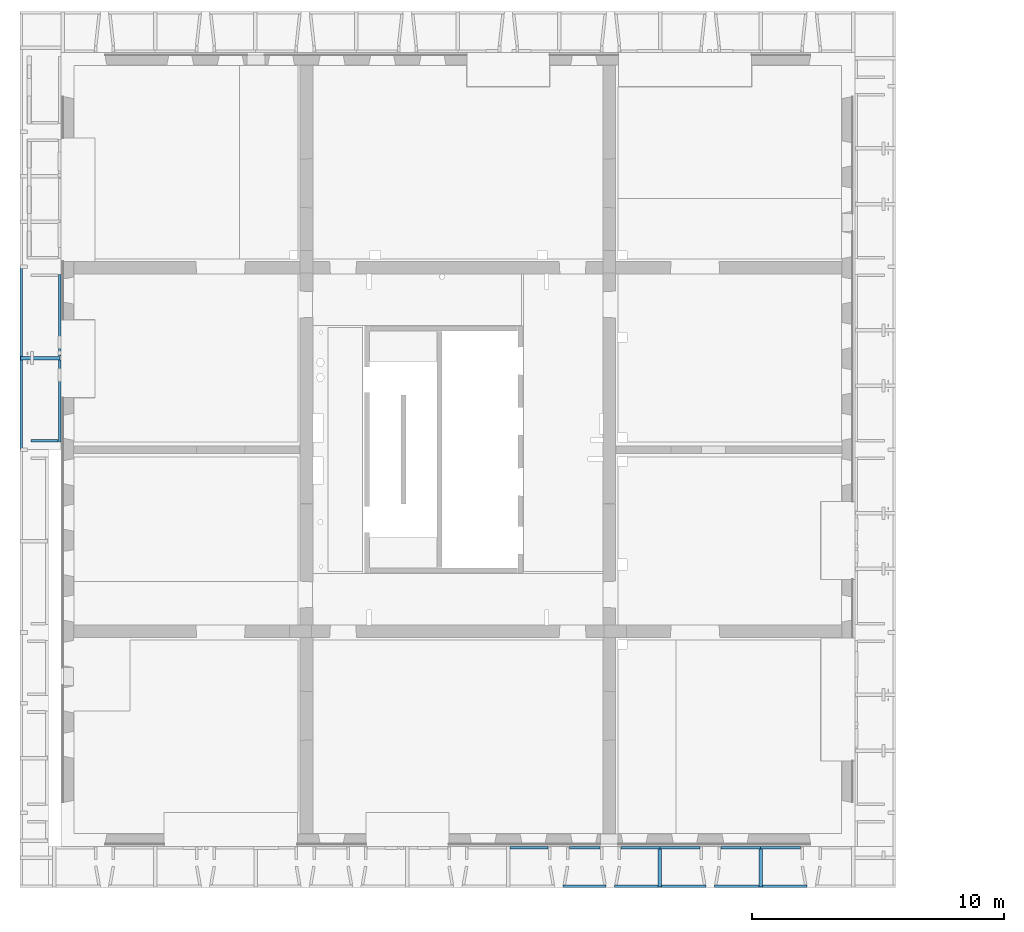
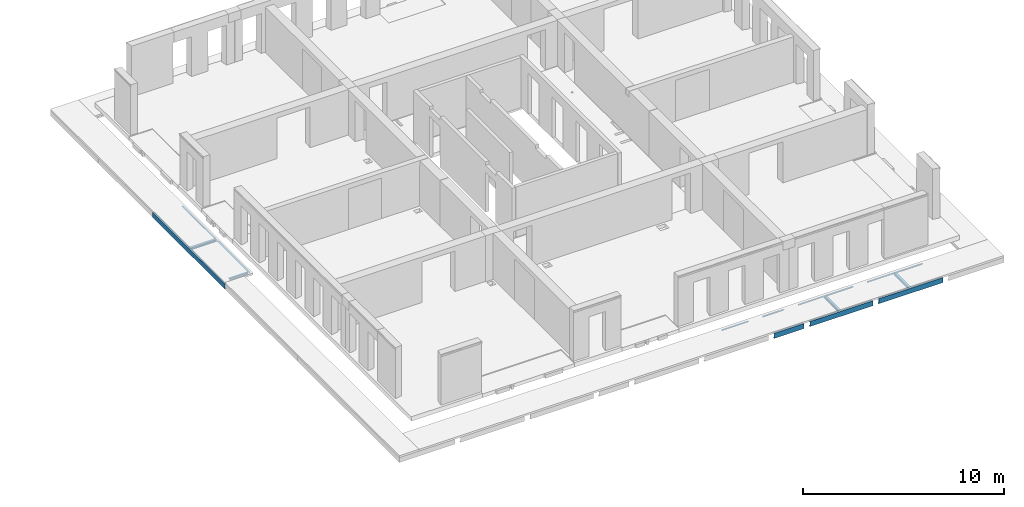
# One storey, part 3 of 27: 16 beams.
"""IFC2X3 building model written with IfcOpenShell, lengths in millimetres."""

from ifc_helpers import new_model, entity, si_unit, converted_unit, derived_unit, direction, frame, frame_2d, origin, place, context, subcontext, project, spatial, polyline, circle_curve, parameter, trimmed, segment, composite_curve, i_section, outline, extrude, material, type_object, element, save


model = new_model("IFC2X3")

# Units and contexts
model_context = context("Model", 3, precision=0.01, world=origin(), true_north=direction((6.12303176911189e-17, 1.0)))
body_context = subcontext(model_context, "Body", "Model", "MODEL_VIEW")
ifc_project = project(units=[si_unit("LENGTHUNIT", "METRE", prefix="MILLI"), si_unit("AREAUNIT", "SQUARE_METRE"), si_unit("VOLUMEUNIT", "CUBIC_METRE"), converted_unit("PLANEANGLEUNIT", "DEGREE", entity("IfcRatioMeasure", 0.0174532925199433), si_unit("PLANEANGLEUNIT", "RADIAN"), dimensions=[0, 0, 0, 0, 0, 0, 0]), si_unit("MASSUNIT", "GRAM", prefix="KILO"), derived_unit("MASSDENSITYUNIT", [(si_unit("MASSUNIT", "GRAM", prefix="KILO"), 1), (si_unit("LENGTHUNIT", "METRE"), -3)]), si_unit("TIMEUNIT", "SECOND"), si_unit("FREQUENCYUNIT", "HERTZ"), si_unit("THERMODYNAMICTEMPERATUREUNIT", "DEGREE_CELSIUS"), derived_unit("THERMALTRANSMITTANCEUNIT", [(si_unit("MASSUNIT", "GRAM", prefix="KILO"), 1), (si_unit("THERMODYNAMICTEMPERATUREUNIT", "KELVIN"), -1), (si_unit("TIMEUNIT", "SECOND"), -3)]), derived_unit("VOLUMETRICFLOWRATEUNIT", [(si_unit("LENGTHUNIT", "METRE"), 3), (si_unit("TIMEUNIT", "SECOND"), -1)]), si_unit("ELECTRICCURRENTUNIT", "AMPERE"), si_unit("ELECTRICVOLTAGEUNIT", "VOLT"), si_unit("POWERUNIT", "WATT"), si_unit("FORCEUNIT", "NEWTON", prefix="KILO"), si_unit("ILLUMINANCEUNIT", "LUX"), si_unit("LUMINOUSFLUXUNIT", "LUMEN"), si_unit("LUMINOUSINTENSITYUNIT", "CANDELA"), derived_unit("USERDEFINED", [(si_unit("MASSUNIT", "GRAM", prefix="KILO"), -1), (si_unit("LENGTHUNIT", "METRE"), -2), (si_unit("TIMEUNIT", "SECOND"), 3), (si_unit("LUMINOUSFLUXUNIT", "LUMEN"), 1)]), derived_unit("LINEARVELOCITYUNIT", [(si_unit("LENGTHUNIT", "METRE"), 1), (si_unit("TIMEUNIT", "SECOND"), -1)]), si_unit("PRESSUREUNIT", "PASCAL"), derived_unit("USERDEFINED", [(si_unit("LENGTHUNIT", "METRE"), -2), (si_unit("MASSUNIT", "GRAM", prefix="KILO"), 1), (si_unit("TIMEUNIT", "SECOND"), -2)])], contexts=[model_context])

# Site, building, storey
site_placement = place(None, origin())
site = spatial("IfcSite", under=ifc_project, at=site_placement, Name="Default", CompositionType="ELEMENT")
building_placement = place(site_placement, origin())
building = spatial("IfcBuilding", under=site, at=building_placement, Name="niet gebruiken", CompositionType="ELEMENT")
storey_placement = place(building_placement, frame((0.0, 0.0, 18000.0)))
storey = spatial("IfcBuildingStorey", under=building, at=storey_placement, Name="05 vijfde verdieping", CompositionType="ELEMENT", Elevation=18000.0)

# Beams
ifc_material = material(Name="NLRS_h2_staal")
beam_type_1 = type_object("IfcBeamType", Name="NLRS_28.11_SF_WPB_stalen ligger HEA_gen:ligger HEA 140", PredefinedType="BEAM")
beam_1_placement = place(storey_placement, frame((125990.0, 21125.0, -1015.0), z_axis=(0.0, 0.0, 1.0), x_axis=(-1.0, 0.0, 0.0)))
element("IfcBeam", 1, at=beam_1_placement, inside=storey, type_object=beam_type_1, material=ifc_material, Name="NLRS_28.11_SF_WPB_stalen ligger HEA_gen:ligger HEA 140", ObjectType="NLRS_28.11_SF_WPB_stalen ligger HEA_gen:ligger HEA 140", context=body_context, shape_type="SweptSolid", body=[
    extrude(i_section(OverallWidth=140.000000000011, OverallDepth=133.000000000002, WebThickness=5.4999999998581, FlangeThickness=8.50000000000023, FilletRadius=12.0000000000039, at=frame_2d((-3.24718030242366e-12, 0.0), x_axis=(0.0, 1.0))), frame((0.0, 0.0, -66.5000000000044), z_axis=(1.0, 0.0, 0.0), x_axis=(0.0, 0.0, -1.0)), (0.0, 0.0, 1.0), 1579.73984361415),
])
for number, where, z_axis, x_axis, name in (
    (2, (153750.0, 160.0, -1015.0), (0.0, 0.0, 1.0), (0.0, 1.0, 0.0), "NLRS_28.11_SF_WPB_stalen ligger HEA_gen:ligger HEA 140"),
    (3, (149750.0, 160.0, -1015.0), (0.0, 0.0, 1.0), (0.0, 1.0, 0.0), "NLRS_28.11_SF_WPB_stalen ligger HEA_gen:ligger HEA 140"),
):
    element("IfcBeam", number, at=place(storey_placement, frame(where, z_axis=z_axis, x_axis=x_axis)), inside=storey, type_object=beam_type_1, material=ifc_material, Name=name, ObjectType="NLRS_28.11_SF_WPB_stalen ligger HEA_gen:ligger HEA 140", context=body_context, shape_type="SweptSolid", body=[
        extrude(i_section(OverallWidth=140.000000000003, OverallDepth=133.0, WebThickness=5.49999999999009, FlangeThickness=8.49999999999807, FilletRadius=11.9999999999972, at=frame_2d((-4.33431068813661e-12, 0.0), x_axis=(0.0, 1.0))), frame((0.0, 0.0, -66.5000000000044), z_axis=(1.0, 0.0, 0.0), x_axis=(0.0, 0.0, -1.0)), (0.0, 0.0, 1.0), 1610.0),
    ])
beam_type_2 = type_object("IfcBeamType", Name="NLRS_28.11_SF_WPB_stalen ligger UNP_gen:ligger UNP 300", PredefinedType="BEAM")
beam_2_placement = place(storey_placement, frame((124427.0, 24700.0, -1015.0), z_axis=(0.0, 0.0, 1.0), x_axis=(0.0, -1.0, 0.0)))
element("IfcBeam", 4, at=beam_2_placement, inside=storey, type_object=beam_type_2, material=ifc_material, Name="NLRS_28.11_SF_WPB_stalen ligger UNP_gen:ligger UNP 300", ObjectType="NLRS_28.11_SF_WPB_stalen ligger UNP_gen:ligger UNP 300", context=body_context, shape_type="SweptSolid", body=[
    extrude(outline(composite_curve([segment(polyline([(-150.062397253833, -54.6666666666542), (149.937602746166, -54.6666666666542)]), True, "CONTINUOUS"), segment(polyline([(149.937602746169, -54.6666666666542), (149.937602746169, 45.3333333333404)]), True, "CONTINUOUS"), segment(polyline([(149.937602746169, 45.3333333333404), (142.655201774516, 45.3333333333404)]), True, "CONTINUOUS"), segment(trimmed(circle_curve(frame_2d((142.655201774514, 37.3333333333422), x_axis=(0.0, 1.0)), 7.99999999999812), [parameter(0.0)], [parameter(90.0000000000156)], True, "PARAMETER"), True, "CONTINUOUS"), segment(polyline([(134.655201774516, 37.3333333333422), (130.39041273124, -28.6666666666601)]), True, "CONTINUOUS"), segment(trimmed(circle_curve(frame_2d((114.39041273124, -28.6666666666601), x_axis=(1.0, 0.0)), 15.9999999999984), [parameter(270.0)], [parameter(0.0)], True, "PARAMETER"), False, "CONTINUOUS"), segment(polyline([(114.390412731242, -44.6666666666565), (-113.875860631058, -44.6666666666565)]), True, "CONTINUOUS"), segment(trimmed(circle_curve(frame_2d((-113.875860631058, -28.6666666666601), x_axis=(0.0, -1.0)), 15.9999999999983), [parameter(270.0)], [parameter(0.0)], True, "PARAMETER"), False, "CONTINUOUS"), segment(polyline([(-129.875860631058, -28.6666666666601), (-135.044959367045, 37.3333333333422)]), True, "CONTINUOUS"), segment(trimmed(circle_curve(frame_2d((-143.044959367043, 37.3333333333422), x_axis=(1.0, 0.0)), 7.9999999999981), [parameter(0.0)], [parameter(90.0000000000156)], True, "PARAMETER"), True, "CONTINUOUS"), segment(polyline([(-143.044959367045, 45.3333333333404), (-150.062397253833, 45.3333333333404)]), True, "CONTINUOUS"), segment(polyline([(-150.062397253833, 45.3333333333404), (-150.062397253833, -54.6666666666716)]), True, "CONTINUOUS")], self_intersect=False)), frame((0.0, 27.666666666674, -150.062397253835), z_axis=(1.0, 0.0, 0.0), x_axis=(0.0, 0.0, -1.0)), (0.0, 0.0, 1.0), 7200.00000000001),
])
beam_3_placement = place(storey_placement, frame((155585.0, 177.0, -1015.0), z_axis=(0.0, 0.0, 1.0), x_axis=(-1.0, 0.0, 0.0)))
element("IfcBeam", 5, at=beam_3_placement, inside=storey, type_object=beam_type_2, material=ifc_material, Name="NLRS_28.11_SF_WPB_stalen ligger UNP_gen:ligger UNP 300", ObjectType="NLRS_28.11_SF_WPB_stalen ligger UNP_gen:ligger UNP 300", context=body_context, shape_type="SweptSolid", body=[
    extrude(outline(composite_curve([segment(polyline([(-149.937602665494, -45.3333336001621), (-142.655201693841, -45.3333336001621)]), True, "CONTINUOUS"), segment(trimmed(circle_curve(frame_2d((-142.655201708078, -37.3333335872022), x_axis=(1.77959691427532e-09, -1.0)), 8.00000000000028), [parameter(0.0)], [parameter(89.9999999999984)], True, "PARAMETER"), True, "CONTINUOUS"), segment(polyline([(-134.655201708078, -37.3333335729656), (-130.390412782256, 28.6666664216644)]), True, "CONTINUOUS"), segment(trimmed(circle_curve(frame_2d((-114.390412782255, 28.6666664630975), x_axis=(-1.0, -1.7795827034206e-09)), 16.0), [parameter(270.000000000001)], [parameter(0.0)], True, "PARAMETER"), False, "CONTINUOUS"), segment(polyline([(-114.390412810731, 44.6666664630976), (113.875860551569, 44.66666685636)]), True, "CONTINUOUS"), segment(trimmed(circle_curve(frame_2d((113.875860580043, 28.6666668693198), x_axis=(-1.77959691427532e-09, 1.0)), 15.9999999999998), [parameter(270.0)], [parameter(0.0)], True, "PARAMETER"), False, "CONTINUOUS"), segment(polyline([(129.875860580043, 28.6666668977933), (135.044959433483, -37.3333331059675)]), True, "CONTINUOUS"), segment(trimmed(circle_curve(frame_2d((143.044959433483, -37.3333330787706), x_axis=(-1.0, -1.77961823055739e-09)), 8.00000000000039), [parameter(0.0)], [parameter(89.9999999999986)], True, "PARAMETER"), True, "CONTINUOUS"), segment(polyline([(143.04495944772, -45.3333330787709), (150.062397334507, -45.3333330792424)]), True, "CONTINUOUS"), segment(polyline([(150.062397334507, -45.3333330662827), (150.062397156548, 54.6666669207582)]), True, "CONTINUOUS"), segment(polyline([(150.062397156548, 54.666666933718), (-149.937602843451, 54.666666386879)]), True, "CONTINUOUS"), segment(polyline([(-149.937602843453, 54.6666663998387), (-149.937602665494, -45.3333336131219)]), True, "CONTINUOUS")], self_intersect=False)), frame((0.0, -27.6666666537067, -149.937602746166), z_axis=(1.0, 0.0, 0.0), x_axis=(0.0, -1.77959439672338e-09, -1.0)), (0.0, 0.0, 1.0), 3673.03330011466),
])
beam_4_placement = place(storey_placement, frame((151581.966699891, 177.0, -1015.0), z_axis=(0.0, 0.0, 1.0), x_axis=(-1.0, 0.0, 0.0)))
element("IfcBeam", 6, at=beam_4_placement, inside=storey, type_object=beam_type_2, material=ifc_material, Name="NLRS_28.11_SF_WPB_stalen ligger UNP_gen:ligger UNP 300", ObjectType="NLRS_28.11_SF_WPB_stalen ligger UNP_gen:ligger UNP 300", context=body_context, shape_type="SweptSolid", body=[
    extrude(outline(composite_curve([segment(polyline([(-149.937602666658, -45.3333335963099), (-142.655201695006, -45.3333335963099)]), True, "CONTINUOUS"), segment(trimmed(circle_curve(frame_2d((-142.655201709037, -37.3333335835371), x_axis=(1.75390368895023e-09, -1.0)), 8.00000000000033), [parameter(0.0)], [parameter(89.9999999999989)], True, "PARAMETER"), True, "CONTINUOUS"), segment(polyline([(-134.655201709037, -37.333333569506), (-130.390412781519, 28.6666664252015)]), True, "CONTINUOUS"), segment(trimmed(circle_curve(frame_2d((-114.390412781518, 28.6666664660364), x_axis=(-1.0, -1.75388947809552e-09)), 16.0), [parameter(270.000000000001)], [parameter(0.0)], True, "PARAMETER"), False, "CONTINUOUS"), segment(polyline([(-114.390412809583, 44.6666664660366), (113.875860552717, 44.6666668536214)]), True, "CONTINUOUS"), segment(trimmed(circle_curve(frame_2d((113.875860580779, 28.6666668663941), x_axis=(-1.75390368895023e-09, 1.0)), 15.9999999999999), [parameter(270.0)], [parameter(0.0)], True, "PARAMETER"), False, "CONTINUOUS"), segment(polyline([(129.875860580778, 28.6666668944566), (135.044959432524, -37.3333331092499)]), True, "CONTINUOUS"), segment(trimmed(circle_curve(frame_2d((143.044959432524, -37.3333330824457), x_axis=(-1.0, -1.7539250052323e-09)), 8.00000000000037), [parameter(0.0)], [parameter(89.9999999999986)], True, "PARAMETER"), True, "CONTINUOUS"), segment(polyline([(143.044959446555, -45.333333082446), (150.062397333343, -45.3333330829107)]), True, "CONTINUOUS"), segment(polyline([(150.062397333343, -45.3333330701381), (150.062397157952, 54.66666691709)]), True, "CONTINUOUS"), segment(polyline([(150.062397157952, 54.6666669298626), (-149.937602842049, 54.6666663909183)]), True, "CONTINUOUS"), segment(polyline([(-149.937602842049, 54.6666664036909), (-149.937602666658, -45.3333336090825)]), True, "CONTINUOUS")], self_intersect=False)), frame((0.0, -27.6666666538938, -149.937602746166), z_axis=(1.0, 0.0, 0.0), x_axis=(0.0, -1.75390243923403e-09, -1.0)), (0.0, 0.0, 1.0), 3620.00000000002),
])
beam_5_placement = place(storey_placement, frame((147626.966699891, 177.0, -1015.0), z_axis=(0.0, 0.0, 1.0), x_axis=(-1.0, 0.0, 0.0)))
element("IfcBeam", 7, at=beam_5_placement, inside=storey, type_object=beam_type_2, material=ifc_material, Name="NLRS_28.11_SF_WPB_stalen ligger UNP_gen:ligger UNP 300", ObjectType="NLRS_28.11_SF_WPB_stalen ligger UNP_gen:ligger UNP 300", context=body_context, shape_type="SweptSolid", body=[
    extrude(outline(composite_curve([segment(polyline([(-149.9376027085, -45.3333334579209), (-142.655201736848, -45.3333334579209)]), True, "CONTINUOUS"), segment(trimmed(circle_curve(frame_2d((-142.655201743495, -37.3333334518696), x_axis=(0.0, -1.0)), 8.00000000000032), [parameter(0.0)], [parameter(89.9999999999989)], True, "PARAMETER"), True, "CONTINUOUS"), segment(polyline([(-134.655201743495, -37.3333334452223), (-130.390412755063, 28.6666665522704)]), True, "CONTINUOUS"), segment(trimmed(circle_curve(frame_2d((-114.39041275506, 28.6666665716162), x_axis=(-1.0, 0.0)), 16.0), [parameter(270.000000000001)], [parameter(0.0)], True, "PARAMETER"), False, "CONTINUOUS"), segment(polyline([(-114.390412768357, 44.6666665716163), (113.875860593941, 44.6666667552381)]), True, "CONTINUOUS"), segment(trimmed(circle_curve(frame_2d((113.875860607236, 28.6666667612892), x_axis=(0.0, 1.0)), 15.9999999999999), [parameter(270.0)], [parameter(0.0)], True, "PARAMETER"), False, "CONTINUOUS"), segment(polyline([(129.875860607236, 28.6666667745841), (135.044959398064, -37.3333332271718)]), True, "CONTINUOUS"), segment(trimmed(circle_curve(frame_2d((143.044959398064, -37.333333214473), x_axis=(-1.0, 0.0)), 8.00000000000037), [parameter(0.0)], [parameter(89.9999999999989)], True, "PARAMETER"), True, "CONTINUOUS"), segment(polyline([(143.044959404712, -45.3333332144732), (150.062397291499, -45.3333332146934)]), True, "CONTINUOUS"), segment(polyline([(150.062397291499, -45.3333332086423), (150.062397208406, 54.6666667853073)]), True, "CONTINUOUS"), segment(polyline([(150.062397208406, 54.6666667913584), (-149.937602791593, 54.6666665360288)]), True, "CONTINUOUS"), segment(polyline([(-149.937602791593, 54.66666654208), (-149.9376027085, -45.333333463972)]), True, "CONTINUOUS")], self_intersect=False)), frame((0.0, -27.6666666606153, -149.937602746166), z_axis=(1.0, 0.0, 0.0), x_axis=(0.0, 0.0, -1.0)), (0.0, 0.0, 1.0), 1715.00000000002),
])
beam_type_3 = type_object("IfcBeamType", Name="NLRS_28.11_SF_WPB_stalen ligger hoekprofiel gelijkzijdig_gen:ligger gelijzijdig hoekprofiel LEQU_100x100x10", PredefinedType="BEAM")
beam_6_placement = place(storey_placement, frame((126020.0, 24460.0, -1015.0), z_axis=(0.0, 0.0, 1.0), x_axis=(0.0, -1.0, 0.0)))
element("IfcBeam", 8, at=beam_6_placement, inside=storey, type_object=beam_type_3, material=ifc_material, Name="NLRS_28.11_SF_WPB_stalen ligger hoekprofiel gelijkzijdig_gen:ligger gelijzijdig hoekprofiel LEQU_100x100x10", ObjectType="NLRS_28.11_SF_WPB_stalen ligger hoekprofiel gelijkzijdig_gen:ligger gelijzijdig hoekprofiel LEQU_100x100x10", context=body_context, shape_type="SweptSolid", body=[
    extrude(outline(composite_curve([segment(polyline([(-37.7777777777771, -62.2222222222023), (-33.7777777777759, -62.2222222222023)]), True, "CONTINUOUS"), segment(trimmed(circle_curve(frame_2d((-33.7777777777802, -56.2222222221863), x_axis=(0.0, -1.0)), 6.00000000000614), [parameter(0.0)], [parameter(89.9999999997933)], True, "PARAMETER"), True, "CONTINUOUS"), segment(polyline([(-27.7777777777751, -56.2222222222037), (-27.7777777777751, 15.7777777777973)]), True, "CONTINUOUS"), segment(trimmed(circle_curve(frame_2d((-15.7777777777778, 15.7777777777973), x_axis=(-1.0, 0.0)), 11.9999999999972), [parameter(269.99999999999)], [parameter(0.0)], True, "PARAMETER"), False, "CONTINUOUS"), segment(polyline([(-15.7777777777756, 27.7777777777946), (56.2222222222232, 27.7777777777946)]), True, "CONTINUOUS"), segment(trimmed(circle_curve(frame_2d((56.2222222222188, 33.7777777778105), x_axis=(0.0, -1.0)), 6.00000000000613), [parameter(0.0)], [parameter(89.9999999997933)], True, "PARAMETER"), True, "CONTINUOUS"), segment(polyline([(62.222222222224, 33.7777777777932), (62.222222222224, 37.7777777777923)]), True, "CONTINUOUS"), segment(polyline([(62.222222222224, 37.7777777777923), (-37.7777777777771, 37.7777777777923)]), True, "CONTINUOUS"), segment(polyline([(-37.7777777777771, 37.7777777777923), (-37.7777777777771, -62.2222222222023)]), True, "CONTINUOUS")], self_intersect=False)), frame((20.0, -37.7777777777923, -37.7777777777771), z_axis=(1.0, 0.0, 0.0), x_axis=(0.0, 0.0, -1.0)), (0.0, 0.0, 1.0), 3235.00000000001),
])
beam_7_placement = place(storey_placement, frame((126020.0, 21055.0, -1015.0), z_axis=(0.0, 0.0, 1.0), x_axis=(0.0, -1.0, 0.0)))
element("IfcBeam", 9, at=beam_7_placement, inside=storey, type_object=beam_type_3, material=ifc_material, Name="NLRS_28.11_SF_WPB_stalen ligger hoekprofiel gelijkzijdig_gen:ligger gelijzijdig hoekprofiel LEQU_100x100x10", ObjectType="NLRS_28.11_SF_WPB_stalen ligger hoekprofiel gelijkzijdig_gen:ligger gelijzijdig hoekprofiel LEQU_100x100x10", context=body_context, shape_type="SweptSolid", body=[
    extrude(outline(composite_curve([segment(polyline([(-37.7777777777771, -62.2222222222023), (-33.7777777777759, -62.2222222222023)]), True, "CONTINUOUS"), segment(trimmed(circle_curve(frame_2d((-33.7777777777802, -56.2222222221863), x_axis=(0.0, -1.0)), 6.00000000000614), [parameter(0.0)], [parameter(89.9999999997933)], True, "PARAMETER"), True, "CONTINUOUS"), segment(polyline([(-27.7777777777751, -56.2222222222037), (-27.7777777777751, 15.7777777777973)]), True, "CONTINUOUS"), segment(trimmed(circle_curve(frame_2d((-15.7777777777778, 15.7777777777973), x_axis=(-1.0, 0.0)), 11.9999999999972), [parameter(269.99999999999)], [parameter(0.0)], True, "PARAMETER"), False, "CONTINUOUS"), segment(polyline([(-15.7777777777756, 27.7777777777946), (56.2222222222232, 27.7777777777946)]), True, "CONTINUOUS"), segment(trimmed(circle_curve(frame_2d((56.2222222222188, 33.7777777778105), x_axis=(0.0, -1.0)), 6.00000000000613), [parameter(0.0)], [parameter(89.9999999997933)], True, "PARAMETER"), True, "CONTINUOUS"), segment(polyline([(62.222222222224, 33.7777777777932), (62.222222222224, 37.7777777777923)]), True, "CONTINUOUS"), segment(polyline([(62.222222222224, 37.7777777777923), (-37.7777777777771, 37.7777777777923)]), True, "CONTINUOUS"), segment(polyline([(-37.7777777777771, 37.7777777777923), (-37.7777777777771, -62.2222222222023)]), True, "CONTINUOUS")], self_intersect=False)), frame((10.0, -37.7777777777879, -37.7777777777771), z_axis=(1.0, 0.0, 0.0), x_axis=(0.0, 0.0, -1.0)), (0.0, 0.0, 1.0), 3244.99999999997),
])
beam_8_placement = place(storey_placement, frame((125919.845824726, 17800.2457647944, -1015.0), z_axis=(0.0, 0.0, 1.0), x_axis=(-1.0, 0.0, 0.0)))
element("IfcBeam", 10, at=beam_8_placement, inside=storey, type_object=beam_type_3, material=ifc_material, Name="NLRS_28.11_SF_WPB_stalen ligger hoekprofiel gelijkzijdig_gen:ligger gelijzijdig hoekprofiel LEQU_100x100x10", ObjectType="NLRS_28.11_SF_WPB_stalen ligger hoekprofiel gelijkzijdig_gen:ligger gelijzijdig hoekprofiel LEQU_100x100x10", context=body_context, shape_type="SweptSolid", body=[
    extrude(outline(composite_curve([segment(polyline([(-37.7777777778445, -62.2222222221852), (-33.7777777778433, -62.2222222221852)]), True, "CONTINUOUS"), segment(trimmed(circle_curve(frame_2d((-33.7777777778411, -56.2222222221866), x_axis=(0.0, -1.0)), 6.00000000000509), [parameter(0.0)], [parameter(89.9999999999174)], True, "PARAMETER"), True, "CONTINUOUS"), segment(polyline([(-27.777777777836, -56.2222222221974), (-27.777777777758, 15.7777777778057)]), True, "CONTINUOUS"), segment(trimmed(circle_curve(frame_2d((-15.7777777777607, 15.7777777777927), x_axis=(-1.0, 0.0)), 11.9999999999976), [parameter(269.999999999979)], [parameter(0.0)], True, "PARAMETER"), False, "CONTINUOUS"), segment(polyline([(-15.7777777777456, 27.77777777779), (56.2222222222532, 27.7777777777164)]), True, "CONTINUOUS"), segment(trimmed(circle_curve(frame_2d((56.2222222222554, 33.7777777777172), x_axis=(0.0, -1.0)), 6.00000000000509), [parameter(0.0)], [parameter(89.9999999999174)], True, "PARAMETER"), True, "CONTINUOUS"), segment(polyline([(62.2222222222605, 33.7777777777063), (62.2222222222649, 37.7777777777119)]), True, "CONTINUOUS"), segment(polyline([(62.2222222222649, 37.7777777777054), (-37.7777777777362, 37.777777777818)]), True, "CONTINUOUS"), segment(polyline([(-37.7777777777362, 37.7777777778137), (-37.7777777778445, -62.2222222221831)]), True, "CONTINUOUS")], self_intersect=False)), frame((10.0, -37.7777777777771, -37.7777777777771), z_axis=(1.0, 0.0, 0.0), x_axis=(0.0, 0.0, -1.0)), (0.0, 0.0, 1.0), 1079.84582412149),
])
beam_9_placement = place(storey_placement, frame((145330.0, 1670.0, -1015.0), z_axis=(0.0, 0.0, 1.0), x_axis=(-1.0, 0.0, 0.0)))
element("IfcBeam", 11, at=beam_9_placement, inside=storey, type_object=beam_type_3, material=ifc_material, Name="NLRS_28.11_SF_WPB_stalen ligger hoekprofiel gelijkzijdig_gen:ligger gelijzijdig hoekprofiel LEQU_100x100x10", ObjectType="NLRS_28.11_SF_WPB_stalen ligger hoekprofiel gelijkzijdig_gen:ligger gelijzijdig hoekprofiel LEQU_100x100x10", context=body_context, shape_type="SweptSolid", body=[
    extrude(outline(composite_curve([segment(polyline([(-37.7777777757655, -37.7777777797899), (62.2222222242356, -37.7777777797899)]), True, "CONTINUOUS"), segment(polyline([(62.2222222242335, -37.7777777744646), (62.2222222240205, -33.7777777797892)]), True, "CONTINUOUS"), segment(trimmed(circle_curve(frame_2d((56.2222222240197, -33.7777777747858), x_axis=(1.0, 0.0)), 6.0000000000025), [parameter(0.0)], [parameter(89.9999999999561)], True, "PARAMETER"), True, "CONTINUOUS"), segment(polyline([(56.2222222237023, -27.7777777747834), (-15.7777777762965, -27.7777777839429)]), True, "CONTINUOUS"), segment(trimmed(circle_curve(frame_2d((-15.7777777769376, -15.7777777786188), x_axis=(0.0, -1.0)), 11.9999999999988), [parameter(269.999999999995)], [parameter(0.0)], True, "PARAMETER"), False, "CONTINUOUS"), segment(polyline([(-27.7777777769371, -15.7777777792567), (-27.7777777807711, 56.2222222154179)]), True, "CONTINUOUS"), segment(trimmed(circle_curve(frame_2d((-33.777777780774, 56.2222222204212), x_axis=(1.0, 0.0)), 6.0000000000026), [parameter(0.0)], [parameter(89.9999999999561)], True, "PARAMETER"), True, "CONTINUOUS"), segment(polyline([(-33.7777777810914, 62.2222222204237), (-37.7777777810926, 62.2222222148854)]), True, "CONTINUOUS"), segment(polyline([(-37.7777777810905, 62.2222222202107), (-37.7777777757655, -37.7777777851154)]), True, "CONTINUOUS")], self_intersect=False)), frame((0.0, -62.2222222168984, -37.7777777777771), z_axis=(1.0, 0.0, 0.0), x_axis=(0.0, 0.0, -1.0)), (0.0, 0.0, 1.0), 1510.00000000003),
])
beam_10_placement = place(storey_placement, frame((155330.0, 1670.0, -1015.0), z_axis=(0.0, 0.0, 1.0), x_axis=(-1.0, 0.0, 0.0)))
element("IfcBeam", 12, at=beam_10_placement, inside=storey, type_object=beam_type_3, material=ifc_material, Name="NLRS_28.11_SF_WPB_stalen ligger hoekprofiel gelijkzijdig_gen:ligger gelijzijdig hoekprofiel LEQU_100x100x10", ObjectType="NLRS_28.11_SF_WPB_stalen ligger hoekprofiel gelijkzijdig_gen:ligger gelijzijdig hoekprofiel LEQU_100x100x10", context=body_context, shape_type="SweptSolid", body=[
    extrude(outline(composite_curve([segment(polyline([(-37.7777777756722, -37.7777777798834), (62.2222222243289, -37.7777777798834)]), True, "CONTINUOUS"), segment(polyline([(62.2222222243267, -37.7777777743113), (62.2222222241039, -33.7777777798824)]), True, "CONTINUOUS"), segment(trimmed(circle_curve(frame_2d((56.2222222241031, -33.7777777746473), x_axis=(1.0, 0.0)), 6.0000000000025), [parameter(0.0)], [parameter(89.9999999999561)], True, "PARAMETER"), True, "CONTINUOUS"), segment(polyline([(56.2222222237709, -27.7777777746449), (-15.7777777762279, -27.7777777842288)]), True, "CONTINUOUS"), segment(trimmed(circle_curve(frame_2d((-15.7777777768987, -15.777777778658), x_axis=(0.0, -1.0)), 11.9999999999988), [parameter(269.999999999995)], [parameter(0.0)], True, "PARAMETER"), False, "CONTINUOUS"), segment(polyline([(-27.7777777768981, -15.7777777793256), (-27.7777777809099, 56.2222222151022)]), True, "CONTINUOUS"), segment(trimmed(circle_curve(frame_2d((-33.7777777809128, 56.2222222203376), x_axis=(1.0, 0.0)), 6.0000000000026), [parameter(0.0)], [parameter(89.9999999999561)], True, "PARAMETER"), True, "CONTINUOUS"), segment(polyline([(-33.777777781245, 62.22222222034), (-37.7777777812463, 62.222222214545)]), True, "CONTINUOUS"), segment(polyline([(-37.7777777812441, 62.2222222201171), (-37.7777777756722, -37.7777777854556)]), True, "CONTINUOUS")], self_intersect=False)), frame((0.0, -62.2222222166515, -37.7777777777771), z_axis=(1.0, 0.0, 0.0), x_axis=(0.0, 0.0, -1.0)), (0.0, 0.0, 1.0), 1579.99999939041),
])
beam_11_placement = place(storey_placement, frame((153750.0, 1670.0, -1015.0), z_axis=(0.0, 0.0, 1.0), x_axis=(-1.0, 0.0, 0.0)))
element("IfcBeam", 13, at=beam_11_placement, inside=storey, type_object=beam_type_3, material=ifc_material, Name="NLRS_28.11_SF_WPB_stalen ligger hoekprofiel gelijkzijdig_gen:ligger gelijzijdig hoekprofiel LEQU_100x100x10", ObjectType="NLRS_28.11_SF_WPB_stalen ligger hoekprofiel gelijkzijdig_gen:ligger gelijzijdig hoekprofiel LEQU_100x100x10", context=body_context, shape_type="SweptSolid", body=[
    extrude(outline(composite_curve([segment(polyline([(-37.7777777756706, -37.7777777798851), (62.2222222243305, -37.7777777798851)]), True, "CONTINUOUS"), segment(polyline([(62.2222222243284, -37.7777777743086), (62.2222222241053, -33.7777777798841)]), True, "CONTINUOUS"), segment(trimmed(circle_curve(frame_2d((56.2222222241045, -33.7777777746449), x_axis=(1.0, 0.0)), 6.0000000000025), [parameter(0.0)], [parameter(89.9999999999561)], True, "PARAMETER"), True, "CONTINUOUS"), segment(polyline([(56.2222222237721, -27.7777777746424), (-15.7777777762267, -27.7777777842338)]), True, "CONTINUOUS"), segment(trimmed(circle_curve(frame_2d((-15.777777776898, -15.7777777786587), x_axis=(0.0, -1.0)), 11.9999999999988), [parameter(269.999999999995)], [parameter(0.0)], True, "PARAMETER"), False, "CONTINUOUS"), segment(polyline([(-27.7777777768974, -15.7777777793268), (-27.7777777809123, 56.2222222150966)]), True, "CONTINUOUS"), segment(trimmed(circle_curve(frame_2d((-33.7777777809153, 56.2222222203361), x_axis=(1.0, 0.0)), 6.0000000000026), [parameter(0.0)], [parameter(89.9999999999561)], True, "PARAMETER"), True, "CONTINUOUS"), segment(polyline([(-33.7777777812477, 62.2222222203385), (-37.777777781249, 62.222222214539)]), True, "CONTINUOUS"), segment(polyline([(-37.7777777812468, 62.2222222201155), (-37.7777777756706, -37.7777777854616)]), True, "CONTINUOUS")], self_intersect=False)), frame((6.09630486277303e-07, -62.2222222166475, -37.7777777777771), z_axis=(1.0, 0.0, 0.0), x_axis=(0.0, 0.0, -1.0)), (0.0, 0.0, 1.0), 1579.99999939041),
])
beam_12_placement = place(storey_placement, frame((151349.956784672, 1670.0, -1015.0), z_axis=(0.0, 0.0, 1.0), x_axis=(-1.0, 0.0, 0.0)))
element("IfcBeam", 14, at=beam_12_placement, inside=storey, type_object=beam_type_3, material=ifc_material, Name="NLRS_28.11_SF_WPB_stalen ligger hoekprofiel gelijkzijdig_gen:ligger gelijzijdig hoekprofiel LEQU_100x100x10", ObjectType="NLRS_28.11_SF_WPB_stalen ligger hoekprofiel gelijkzijdig_gen:ligger gelijzijdig hoekprofiel LEQU_100x100x10", context=body_context, shape_type="SweptSolid", body=[
    extrude(outline(composite_curve([segment(polyline([(-37.7777777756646, -37.7777777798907), (62.2222222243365, -37.7777777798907)]), True, "CONTINUOUS"), segment(polyline([(62.2222222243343, -37.7777777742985), (62.2222222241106, -33.7777777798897)]), True, "CONTINUOUS"), segment(trimmed(circle_curve(frame_2d((56.2222222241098, -33.7777777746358), x_axis=(1.0, 0.0)), 6.0000000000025), [parameter(0.0)], [parameter(89.9999999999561)], True, "PARAMETER"), True, "CONTINUOUS"), segment(polyline([(56.2222222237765, -27.7777777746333), (-15.7777777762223, -27.7777777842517)]), True, "CONTINUOUS"), segment(trimmed(circle_curve(frame_2d((-15.7777777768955, -15.7777777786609), x_axis=(0.0, -1.0)), 11.9999999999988), [parameter(269.999999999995)], [parameter(0.0)], True, "PARAMETER"), False, "CONTINUOUS"), segment(polyline([(-27.777777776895, -15.7777777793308), (-27.7777777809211, 56.2222222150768)]), True, "CONTINUOUS"), segment(trimmed(circle_curve(frame_2d((-33.7777777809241, 56.2222222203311), x_axis=(1.0, 0.0)), 6.0000000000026), [parameter(0.0)], [parameter(89.9999999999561)], True, "PARAMETER"), True, "CONTINUOUS"), segment(polyline([(-33.7777777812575, 62.2222222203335), (-37.7777777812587, 62.2222222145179)]), True, "CONTINUOUS"), segment(polyline([(-37.7777777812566, 62.2222222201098), (-37.7777777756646, -37.7777777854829)]), True, "CONTINUOUS")], self_intersect=False)), frame((6.64750920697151, -62.2222222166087, -37.7777777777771), z_axis=(1.0, 0.0, 0.0), x_axis=(0.0, 0.0, -1.0)), (0.0, 0.0, 1.0), 1585.68427485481),
])
beam_13_placement = place(storey_placement, frame((149757.625, 1670.0, -1015.0), z_axis=(0.0, 0.0, 1.0), x_axis=(-1.0, 0.0, 0.0)))
element("IfcBeam", 15, at=beam_13_placement, inside=storey, type_object=beam_type_3, material=ifc_material, Name="NLRS_28.11_SF_WPB_stalen ligger hoekprofiel gelijkzijdig_gen:ligger gelijzijdig hoekprofiel LEQU_100x100x10", ObjectType="NLRS_28.11_SF_WPB_stalen ligger hoekprofiel gelijkzijdig_gen:ligger gelijzijdig hoekprofiel LEQU_100x100x10", context=body_context, shape_type="SweptSolid", body=[
    extrude(outline(composite_curve([segment(polyline([(-37.7777777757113, -37.7777777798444), (62.2222222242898, -37.7777777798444)]), True, "CONTINUOUS"), segment(polyline([(62.2222222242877, -37.7777777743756), (62.2222222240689, -33.7777777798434)]), True, "CONTINUOUS"), segment(trimmed(circle_curve(frame_2d((56.2222222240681, -33.7777777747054), x_axis=(1.0, 0.0)), 6.0000000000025), [parameter(0.0)], [parameter(89.9999999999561)], True, "PARAMETER"), True, "CONTINUOUS"), segment(polyline([(56.2222222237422, -27.777777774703), (-15.7777777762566, -27.7777777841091)]), True, "CONTINUOUS"), segment(trimmed(circle_curve(frame_2d((-15.777777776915, -15.7777777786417), x_axis=(0.0, -1.0)), 11.9999999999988), [parameter(269.999999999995)], [parameter(0.0)], True, "PARAMETER"), False, "CONTINUOUS"), segment(polyline([(-27.7777777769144, -15.7777777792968), (-27.7777777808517, 56.2222222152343)]), True, "CONTINUOUS"), segment(trimmed(circle_curve(frame_2d((-33.7777777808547, 56.2222222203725), x_axis=(1.0, 0.0)), 6.0000000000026), [parameter(0.0)], [parameter(89.9999999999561)], True, "PARAMETER"), True, "CONTINUOUS"), segment(polyline([(-33.7777777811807, 62.2222222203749), (-37.7777777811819, 62.2222222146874)]), True, "CONTINUOUS"), segment(polyline([(-37.7777777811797, 62.2222222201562), (-37.7777777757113, -37.7777777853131)]), True, "CONTINUOUS")], self_intersect=False)), frame((6.09578472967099e-07, -62.2222222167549, -37.7777777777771), z_axis=(1.0, 0.0, 0.0), x_axis=(0.0, 0.0, -1.0)), (0.0, 0.0, 1.0), 1549.44914227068),
])
beam_14_placement = place(storey_placement, frame((147400.0, 1670.0, -1015.0), z_axis=(0.0, 0.0, 1.0), x_axis=(-1.0, 0.0, 0.0)))
element("IfcBeam", 16, at=beam_14_placement, inside=storey, type_object=beam_type_3, material=ifc_material, Name="NLRS_28.11_SF_WPB_stalen ligger hoekprofiel gelijkzijdig_gen:ligger gelijzijdig hoekprofiel LEQU_100x100x10", ObjectType="NLRS_28.11_SF_WPB_stalen ligger hoekprofiel gelijkzijdig_gen:ligger gelijzijdig hoekprofiel LEQU_100x100x10", context=body_context, shape_type="SweptSolid", body=[
    extrude(outline(composite_curve([segment(polyline([(-37.7777777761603, -37.7777777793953), (62.2222222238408, -37.7777777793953)]), True, "CONTINUOUS"), segment(polyline([(62.2222222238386, -37.7777777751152), (62.2222222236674, -33.7777777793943)]), True, "CONTINUOUS"), segment(trimmed(circle_curve(frame_2d((56.2222222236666, -33.7777777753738), x_axis=(1.0, 0.0)), 6.0000000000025), [parameter(0.0)], [parameter(89.9999999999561)], True, "PARAMETER"), True, "CONTINUOUS"), segment(polyline([(56.222222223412, -27.7777777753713), (-15.7777777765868, -27.7777777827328)]), True, "CONTINUOUS"), segment(trimmed(circle_curve(frame_2d((-15.7777777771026, -15.7777777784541), x_axis=(0.0, -1.0)), 11.9999999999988), [parameter(269.999999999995)], [parameter(0.0)], True, "PARAMETER"), False, "CONTINUOUS"), segment(polyline([(-27.777777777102, -15.7777777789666), (-27.7777777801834, 56.2222222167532)]), True, "CONTINUOUS"), segment(trimmed(circle_curve(frame_2d((-33.7777777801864, 56.222222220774), x_axis=(1.0, 0.0)), 6.0000000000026), [parameter(0.0)], [parameter(89.9999999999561)], True, "PARAMETER"), True, "CONTINUOUS"), segment(polyline([(-33.777777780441, 62.2222222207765), (-37.7777777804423, 62.2222222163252)]), True, "CONTINUOUS"), segment(polyline([(-37.7777777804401, 62.2222222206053), (-37.7777777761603, -37.7777777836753)]), True, "CONTINUOUS")], self_intersect=False)), frame((17.3507403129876, -62.2222222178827, -37.7777777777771), z_axis=(1.0, 0.0, 0.0), x_axis=(0.0, 0.0, -1.0)), (0.0, 0.0, 1.0), 1212.64925968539),
])

save(model, "model.ifc")
